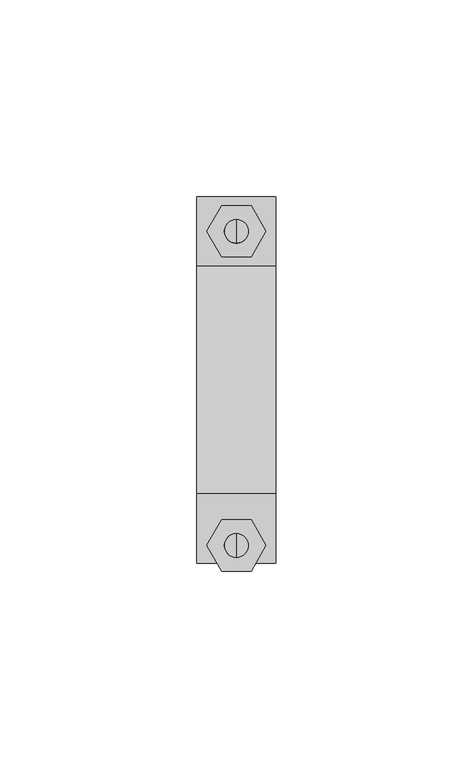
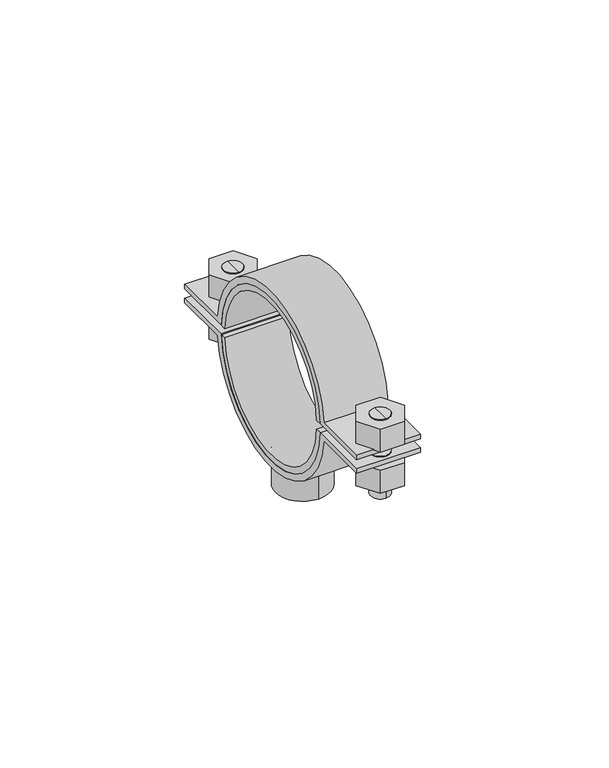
"""IFC4 building model written with IfcOpenShell, lengths in millimetres: valve geometry, Superfix DG2 Clamp Extra (based on pipe) : Superfix DG2 Clamp Extra (based on pipe)."""

import ifcopenshell
import ifcopenshell.guid

model = None  # the IFC model being written
_history = None  # IfcOwnerHistory: only IFC2X3 demands one
_inside = {}  # id of a spatial element -> (the spatial element, [elements in it])
_under = {}  # id of a project, library or spatial element -> (it, [spatial elements below it])
_declared = {}  # id of a project -> (the project, [libraries it declares])
_typed = {}  # id of a type object -> (the type object, [elements of that type])
_made_of = {}  # id of a material, layer set ... -> (it, [elements and type objects made of it])


def new_model(schema):
    """Start an empty IFC model of exactly this schema.

    Asked for "IFC4X3", IfcOpenShell would pick the latest addendum, in which some entities
    have other attributes; the version numbers below select the first issue.
    IFC2X3 requires an IfcOwnerHistory on every rooted entity: one is made here for all.
    """
    global model, _history
    if schema == "IFC4X3":
        model = ifcopenshell.file(schema_version=(4, 3, 0, 0))
    else:
        model = ifcopenshell.file(schema=schema)
    _inside.clear()
    _under.clear()
    _declared.clear()
    _typed.clear()
    _made_of.clear()
    _history = None
    if model.schema == "IFC2X3":
        org = make("IfcOrganization", Name="unknown")
        user = make(
            "IfcPersonAndOrganization",
            ThePerson=make("IfcPerson", FamilyName="unknown"),
            TheOrganization=org,
        )
        app = make(
            "IfcApplication",
            ApplicationDeveloper=org,
            Version="unknown",
            ApplicationFullName="unknown",
            ApplicationIdentifier="unknown",
        )
        _history = make(
            "IfcOwnerHistory",
            OwningUser=user,
            OwningApplication=app,
            ChangeAction="ADDED",
            CreationDate=0,
        )
    return model


def make(cls, **values):
    """One entity of the class cls with the attributes given. An attribute that is None is left unset."""
    return model.create_entity(
        cls, **{name: value for name, value in values.items() if value is not None}
    )


def rooted(cls, **values):
    """An entity with a GlobalId (a new one), such as an element, a storey or a relation."""
    return make(cls, GlobalId=ifcopenshell.guid.new(), OwnerHistory=_history, **values)


def si_unit(unit_type, name, prefix=None):
    """IfcSIUnit, for example si_unit("LENGTHUNIT", "METRE", prefix="MILLI")."""
    return make("IfcSIUnit", UnitType=unit_type, Prefix=prefix, Name=name)


def assignment(units):
    """IfcUnitAssignment: the units of a project."""
    return None if units is None else make("IfcUnitAssignment", Units=units)


def point(xyz):
    """IfcCartesianPoint."""
    return None if xyz is None else make("IfcCartesianPoint", Coordinates=xyz)


def direction(xyz):
    """IfcDirection."""
    return None if xyz is None else make("IfcDirection", DirectionRatios=xyz)


def frame(location, z_axis=None, x_axis=None):
    """IfcAxis2Placement3D, a coordinate frame: its origin and axes. An axis left out is left unset."""
    return make(
        "IfcAxis2Placement3D",
        Location=point(location),
        Axis=direction(z_axis),
        RefDirection=direction(x_axis),
    )


def frame_2d(location, x_axis=None):
    """IfcAxis2Placement2D, a coordinate frame in the plane: its origin and x axis."""
    return make(
        "IfcAxis2Placement2D", Location=point(location), RefDirection=direction(x_axis)
    )


def origin():
    """The frame at (0, 0, 0) with its axes left unset."""
    return frame((0.0, 0.0, 0.0))


def origin_2d():
    """The frame at (0, 0) in the plane with its x axis left unset."""
    return frame_2d((0.0, 0.0))


def place(relative_to, where):
    """IfcLocalPlacement: puts the frame where relative to a parent placement (None: the world)."""
    return make(
        "IfcLocalPlacement", PlacementRelTo=relative_to, RelativePlacement=where
    )


def context(
    kind, dimensions, precision=None, world=None, true_north=None, identifier=None
):
    """IfcGeometricRepresentationContext, for example the 3D "Model" context."""
    return make(
        "IfcGeometricRepresentationContext",
        ContextIdentifier=identifier,
        ContextType=kind,
        CoordinateSpaceDimension=dimensions,
        Precision=precision,
        WorldCoordinateSystem=world,
        TrueNorth=true_north,
    )


def project(units=None, contexts=None):
    """IfcProject with its units and contexts."""
    return rooted(
        "IfcProject",
        Name="project",
        RepresentationContexts=contexts,
        UnitsInContext=assignment(units),
    )


def spatial(cls, under=None, at=None, **own):
    """A site, building, storey or space (cls), placed at a placement, below another one or the project."""
    s = rooted(cls, ObjectPlacement=at, **own)
    if under is not None:
        _under.setdefault(under.id(), (under, []))[1].append(s)
    return s


def polyline(points):
    """IfcPolyline through the points."""
    return make("IfcPolyline", Points=[point(p) for p in points])


def circle_curve(where, radius):
    """IfcCircle in the frame where."""
    return make("IfcCircle", Position=where, Radius=radius)


def trimmed(basis, trim1, trim2, sense, master):
    """IfcTrimmedCurve: the piece of a basis curve between two trims."""
    return make(
        "IfcTrimmedCurve",
        BasisCurve=basis,
        Trim1=trim1,
        Trim2=trim2,
        SenseAgreement=sense,
        MasterRepresentation=master,
    )


def segment(curve, same_sense, transition):
    """IfcCompositeCurveSegment."""
    return make(
        "IfcCompositeCurveSegment",
        Transition=transition,
        SameSense=same_sense,
        ParentCurve=curve,
    )


def composite_curve(segments, self_intersect=None):
    """IfcCompositeCurve: segments joined end to end."""
    return make("IfcCompositeCurve", Segments=segments, SelfIntersect=self_intersect)


def outline(outer, holes=None, kind="AREA"):
    """IfcArbitraryClosedProfileDef: a profile drawn as a closed curve; with holes, ...WithVoids."""
    if holes is None:
        return make("IfcArbitraryClosedProfileDef", ProfileType=kind, OuterCurve=outer)
    return make(
        "IfcArbitraryProfileDefWithVoids",
        ProfileType=kind,
        OuterCurve=outer,
        InnerCurves=holes,
    )


def extrude(swept, where, along, depth):
    """IfcExtrudedAreaSolid: the profile swept, set in the frame where, extruded along a direction by depth."""
    return make(
        "IfcExtrudedAreaSolid",
        SweptArea=swept,
        Position=where,
        ExtrudedDirection=direction(along),
        Depth=depth,
    )


def shape(context_of_items, identifier, shape_type, items):
    """IfcShapeRepresentation: the items that make up one representation, for example the "Body"."""
    return make(
        "IfcShapeRepresentation",
        ContextOfItems=context_of_items,
        RepresentationIdentifier=identifier,
        RepresentationType=shape_type,
        Items=items,
    )


def source(mapping_origin, context_of_items, identifier, shape_type, items):
    """IfcRepresentationMap: a shape defined once, which mapped items show again and again."""
    return make(
        "IfcRepresentationMap",
        MappingOrigin=mapping_origin,
        MappedRepresentation=shape(context_of_items, identifier, shape_type, items),
    )


def transform(
    local_origin,
    x_axis=None,
    y_axis=None,
    z_axis=None,
    scale=None,
    scale2=None,
    scale3=None,
    uniform=True,
):
    """IfcCartesianTransformationOperator3D, or its non-uniform kind. x_axis, y_axis, z_axis: its Axis1, 2, 3."""
    if uniform:
        return make(
            "IfcCartesianTransformationOperator3D",
            Axis1=direction(x_axis),
            Axis2=direction(y_axis),
            LocalOrigin=point(local_origin),
            Scale=scale,
            Axis3=direction(z_axis),
        )
    return make(
        "IfcCartesianTransformationOperator3DnonUniform",
        Axis1=direction(x_axis),
        Axis2=direction(y_axis),
        LocalOrigin=point(local_origin),
        Scale=scale,
        Axis3=direction(z_axis),
        Scale2=scale2,
        Scale3=scale3,
    )


def mapped(mapping_source, mapping_target):
    """IfcMappedItem: shows the shape of a source again, moved by a transform."""
    return make(
        "IfcMappedItem", MappingSource=mapping_source, MappingTarget=mapping_target
    )


def made_of(thing, what):
    """Note that an element or type object is made of a material, layer set ...; save() writes the relation."""
    if what is not None:
        _made_of.setdefault(what.id(), (what, []))[1].append(thing)
    return thing


def element(
    cls,
    number,
    at=None,
    inside=None,
    cuts=None,
    type_object=None,
    material=None,
    context=None,
    identifier="Body",
    shape_type=None,
    held_by="IfcProductDefinitionShape",
    body=None,
    shapes=None,
    **own,
):
    """One element of the class cls, such as IfcWall. Its Tag is "e" and its number.

    at: its placement. inside: the storey or other place that contains it. cuts: it is an
    opening in that element (IfcRelVoidsElement). A single representation is given by context,
    identifier, shape_type and body (its items); several are given by shapes. held_by: the class
    of the entity that holds the representations. save() writes the other relations.
    """
    e = rooted(cls, Tag="e%d" % number, ObjectPlacement=at, **own)
    if body is not None:
        shapes = [shape(context, identifier, shape_type, body)]
    if shapes is not None:
        e.Representation = make(held_by, Representations=shapes)
    if inside is not None:
        _inside.setdefault(inside.id(), (inside, []))[1].append(e)
    if cuts is not None:
        rooted(
            "IfcRelVoidsElement", RelatingBuildingElement=cuts, RelatedOpeningElement=e
        )
    if type_object is not None:
        _typed.setdefault(type_object.id(), (type_object, []))[1].append(e)
    return made_of(e, material)


def aggregate(whole, parts):
    """IfcRelAggregates: a whole, such as a stair, and the parts it consists of."""
    return rooted("IfcRelAggregates", RelatingObject=whole, RelatedObjects=parts)


def save(model, path):
    """Write the relations noted so far, then the file.

    IfcRelAggregates (storeys below a building ...), IfcRelContainedInSpatialStructure (elements
    in a storey), IfcRelDefinesByType, IfcRelAssociatesMaterial and IfcRelDeclares: one each for
    every whole, place, type object, material and project.
    """
    for whole, parts in _under.values():
        aggregate(whole, parts)
    for where, things in _inside.values():
        rooted(
            "IfcRelContainedInSpatialStructure",
            RelatedElements=things,
            RelatingStructure=where,
        )
    for kind, things in _typed.values():
        rooted("IfcRelDefinesByType", RelatedObjects=things, RelatingType=kind)
    for what, things in _made_of.values():
        rooted("IfcRelAssociatesMaterial", RelatedObjects=things, RelatingMaterial=what)
    for by, libraries in _declared.values():
        rooted("IfcRelDeclares", RelatingContext=by, RelatedDefinitions=libraries)
    model.write(path)


def plane_surface(at):
    """IfcPlane: the flat surface through the origin of the frame at, square to its z axis."""
    return make("IfcPlane", Position=at)


def cylinder_surface(at, radius):
    """IfcCylindricalSurface: all points at the distance radius from the z axis of the frame at."""
    return make("IfcCylindricalSurface", Position=at, Radius=radius)


def advanced_brep(points, edges, surfaces, faces):
    """IfcAdvancedBrep: a solid bounded by faces that lie on surfaces and meet in shared edges.

    An edge is (start, end): straight between two places in points (the first is 0);
    or (start, end, curve); or (start, end, curve, False) where it runs against its curve.
    A face is (place in surfaces, loops), or (place, loops, False) where it looks against
    its surface's normal. A loop lists edges by number (the first is 1), with a minus sign
    where the edge is run from its end to its start. The first loop is the outer one.
    """
    corners = [point(p) for p in points]
    vertices = [make("IfcVertexPoint", VertexGeometry=c) for c in corners]
    made = []
    for start, end, *more in edges:
        made.append(
            make(
                "IfcEdgeCurve",
                EdgeStart=vertices[start],
                EdgeEnd=vertices[end],
                EdgeGeometry=more[0] if more else make("IfcPolyline", Points=[corners[start], corners[end]]),
                SameSense=more[1] if len(more) > 1 else True,
            )
        )
    hull = []
    for where, loops, *sense in faces:
        bounds = []
        for j, loop in enumerate(loops):
            ring = [make("IfcOrientedEdge", EdgeElement=made[abs(k) - 1], Orientation=k > 0) for k in loop]
            bounds.append(
                make(
                    "IfcFaceOuterBound" if j == 0 else "IfcFaceBound",
                    Bound=make("IfcEdgeLoop", EdgeList=ring),
                    Orientation=True,
                )
            )
        hull.append(make("IfcAdvancedFace", Bounds=bounds, FaceSurface=surfaces[where], SameSense=sense[0] if sense else True))
    return make("IfcAdvancedBrep", Outer=make("IfcClosedShell", CfsFaces=hull))


def valve_5bac2775(model_context):
    return source(origin(), model_context, "Body", "SolidModel", [
        advanced_brep(
        [(0.0, 40.75, 342.9002332), (0.0, 34.75, 342.9002332), (0.0, 34.75, 357.0002332), (0.0, 40.75, 357.0002332), (0.0, 37.75, 342.9002332)],
        [
            (0, 1, circle_curve(frame((0.0, 37.75, 342.9002332), z_axis=(0.0, 0.0, 1.0), x_axis=(0.0, 1.0, 0.0)), 3.0)),
            (1, 2),
            (2, 3, circle_curve(frame((0.0, 37.75, 357.0002332), z_axis=(0.0, 0.0, -1.0), x_axis=(0.0, 1.0, 0.0)), 3.0)),
            (3, 0),
            (1, 0, circle_curve(frame((0.0, 37.75, 342.9002332), z_axis=(0.0, 0.0, 1.0), x_axis=(0.0, 1.0, 0.0)), 3.0)),
            (3, 2, circle_curve(frame((0.0, 37.75, 357.0002332), z_axis=(0.0, 0.0, -1.0), x_axis=(0.0, 1.0, 0.0)), 3.0)),
            (0, 4),
            (4, 1),
        ],
        [
            cylinder_surface(frame((0.0, 37.75, 356.7808426), z_axis=(0.0, 0.0, 1.0), x_axis=(0.0, 1.0, 0.0)), 3.0),
            plane_surface(frame((0.0, 37.75, 342.9002332), z_axis=(0.0, 0.0, -1.0), x_axis=(0.0, 1.0, 0.0))),
            plane_surface(frame((13.75, -46.5, 357.0002332), z_axis=(0.0, 0.0, 1.0), x_axis=(-1.0, 0.0, 0.0))),
        ],
        [
            (0, [[1, 2, 3, 4]]),
            (0, [[5, -4, 6, -2]]),
            (1, [[-1, 7, 8]]),
            (1, [[-5, -8, -7]]),
            (2, [[-3, -6]]),
        ],
    ),
        advanced_brep(
        [(0.0, 34.75, 369.1002332), (0.0, 40.75, 369.1002332), (0.0, 40.75, 360.0002332), (0.0, 34.75, 360.0002332), (0.0, 37.75, 369.1002332)],
        [
            (0, 1, circle_curve(frame((0.0, 37.75, 369.1002332), z_axis=(0.0, 0.0, -1.0), x_axis=(0.0, 1.0, 0.0)), 3.0)),
            (1, 2),
            (2, 3, circle_curve(frame((0.0, 37.75, 360.0002332), z_axis=(0.0, 0.0, 1.0), x_axis=(0.0, 1.0, 0.0)), 3.0)),
            (3, 0),
            (1, 0, circle_curve(frame((0.0, 37.75, 369.1002332), z_axis=(0.0, 0.0, -1.0), x_axis=(0.0, 1.0, 0.0)), 3.0)),
            (3, 2, circle_curve(frame((0.0, 37.75, 360.0002332), z_axis=(0.0, 0.0, 1.0), x_axis=(0.0, 1.0, 0.0)), 3.0)),
            (0, 4),
            (4, 1),
        ],
        [
            cylinder_surface(frame((0.0, 37.75, 356.7808426), z_axis=(0.0, 0.0, 1.0), x_axis=(0.0, 1.0, 0.0)), 3.0),
            plane_surface(frame((0.0, 37.75, 369.1002332), z_axis=(0.0, 0.0, 1.0), x_axis=(0.0, 1.0, 0.0))),
            plane_surface(frame((13.75, 46.5, 360.0002332), z_axis=(0.0, 0.0, -1.0), x_axis=(-1.0, 0.0, 0.0))),
        ],
        [
            (0, [[1, 2, 3, 4]]),
            (0, [[5, -4, 6, -2]]),
            (1, [[-1, 7, 8]]),
            (1, [[-5, -8, -7]]),
            (2, [[-3, -6]]),
        ],
    ),
        advanced_brep(
        [(0.0, -45.0, 369.1002332), (0.0, -39.0, 369.1002332), (0.0, -39.0, 360.0002332), (0.0, -45.0, 360.0002332), (0.0, -42.0, 369.1002332)],
        [
            (0, 1, circle_curve(frame((0.0, -42.0, 369.1002332), z_axis=(0.0, 0.0, -1.0), x_axis=(0.0, -1.0, 0.0)), 3.0)),
            (1, 2),
            (2, 3, circle_curve(frame((0.0, -42.0, 360.0002332), z_axis=(0.0, 0.0, 1.0), x_axis=(0.0, -1.0, 0.0)), 3.0)),
            (3, 0),
            (1, 0, circle_curve(frame((0.0, -42.0, 369.1002332), z_axis=(0.0, 0.0, -1.0), x_axis=(0.0, -1.0, 0.0)), 3.0)),
            (3, 2, circle_curve(frame((0.0, -42.0, 360.0002332), z_axis=(0.0, 0.0, 1.0), x_axis=(0.0, -1.0, 0.0)), 3.0)),
            (0, 4),
            (4, 1),
        ],
        [
            cylinder_surface(frame((0.0, -42.0, 356.7808426), z_axis=(0.0, 0.0, -1.0), x_axis=(0.0, -1.0, 0.0)), 3.0),
            plane_surface(frame((0.0, -42.0, 369.1002332), z_axis=(0.0, 0.0, 1.0), x_axis=(0.0, -1.0, 0.0))),
            plane_surface(frame((13.75, 46.5, 360.0002332), z_axis=(0.0, 0.0, -1.0), x_axis=(-1.0, 0.0, 0.0))),
        ],
        [
            (0, [[1, 2, 3, 4]]),
            (0, [[5, -4, 6, -2]]),
            (1, [[-1, 7, 8]]),
            (1, [[-5, -8, -7]]),
            (2, [[-3, -6]]),
        ],
    ),
        advanced_brep(
        [(0.0, -39.0, 342.9002332), (0.0, -45.0, 342.9002332), (0.0, -45.0, 357.0002332), (0.0, -39.0, 357.0002332), (0.0, -42.0, 342.9002332)],
        [
            (0, 1, circle_curve(frame((0.0, -42.0, 342.9002332), z_axis=(0.0, 0.0, 1.0), x_axis=(0.0, -1.0, 0.0)), 3.0)),
            (1, 2),
            (2, 3, circle_curve(frame((0.0, -42.0, 357.0002332), z_axis=(0.0, 0.0, -1.0), x_axis=(0.0, -1.0, 0.0)), 3.0)),
            (3, 0),
            (1, 0, circle_curve(frame((0.0, -42.0, 342.9002332), z_axis=(0.0, 0.0, 1.0), x_axis=(0.0, -1.0, 0.0)), 3.0)),
            (3, 2, circle_curve(frame((0.0, -42.0, 357.0002332), z_axis=(0.0, 0.0, -1.0), x_axis=(0.0, -1.0, 0.0)), 3.0)),
            (0, 4),
            (4, 1),
        ],
        [
            cylinder_surface(frame((0.0, -42.0, 356.7808426), z_axis=(0.0, 0.0, -1.0), x_axis=(0.0, -1.0, 0.0)), 3.0),
            plane_surface(frame((0.0, -42.0, 342.9002332), z_axis=(0.0, 0.0, -1.0), x_axis=(0.0, -1.0, 0.0))),
            plane_surface(frame((13.75, -46.5, 357.0002332), z_axis=(0.0, 0.0, 1.0), x_axis=(-1.0, 0.0, 0.0))),
        ],
        [
            (0, [[1, 2, 3, 4]]),
            (0, [[5, -4, 6, -2]]),
            (1, [[-1, 7, 8]]),
            (1, [[-5, -8, -7]]),
            (2, [[-3, -6]]),
        ],
    ),
        extrude(outline(composite_curve([segment(trimmed(circle_curve(frame_2d((0.0, 358.5002332)), 27.0), [point((-26.9583011, 357.0002332))], [point((26.9583011, 357.0002332))], True, "CARTESIAN"), True, "CONTINUOUS"), segment(polyline([(26.9583011, 357.0002332), (46.5, 357.0002332), (46.5, 355.5002332), (28.8444102, 355.5002332)]), True, "CONTINUOUS"), segment(trimmed(circle_curve(frame_2d((0.0, 358.5002332)), 29.0), [point((28.8444102, 355.5002332))], [point((-28.8444102, 355.5002332))], False, "CARTESIAN"), True, "CONTINUOUS"), segment(polyline([(-28.8444102, 355.5002332), (-46.5, 355.5002332), (-46.5, 357.0002332), (-26.9583011, 357.0002332)]), True, "CONTINUOUS")], self_intersect=False)), frame((-10.0, 0.0, 0.0), z_axis=(1.0, 0.0, 0.0), x_axis=(0.0, 1.0, 0.0)), (0.0, 0.0, 1.0), 20.0),
        extrude(outline(composite_curve([segment(trimmed(circle_curve(frame_2d((0.0, 358.5002332)), 27.0), [point((26.9583011, 360.0002332))], [point((-26.9583011, 360.0002332))], True, "CARTESIAN"), True, "CONTINUOUS"), segment(polyline([(-26.9583011, 360.0002332), (-46.5, 360.0002332), (-46.5, 361.5002332), (-28.8444102, 361.5002332)]), True, "CONTINUOUS"), segment(trimmed(circle_curve(frame_2d((0.0, 358.5002332)), 29.0), [point((-28.8444102, 361.5002332))], [point((28.8444102, 361.5002332))], False, "CARTESIAN"), True, "CONTINUOUS"), segment(polyline([(28.8444102, 361.5002332), (46.5, 361.5002332), (46.5, 360.0002332), (26.9583011, 360.0002332)]), True, "CONTINUOUS")], self_intersect=False)), frame((-10.0, 0.0, 0.0), z_axis=(1.0, 0.0, 0.0), x_axis=(0.0, 1.0, 0.0)), (0.0, 0.0, 1.0), 20.0),
        extrude(outline(polyline([(7.5055535, -42.0), (3.7527767, -48.5), (-3.7527767, -48.5), (-7.5055535, -42.0), (-3.7527767, -35.5), (3.7527767, -35.5), (7.5055535, -42.0)]), holes=[composite_curve([segment(trimmed(circle_curve(frame_2d((0.0, -42.0)), 3.0), [point((3.0, -42.0))], [point((-3.0, -42.0))], True, "CARTESIAN"), True, "CONTINUOUS"), segment(trimmed(circle_curve(frame_2d((0.0, -42.0)), 3.0), [point((-3.0, -42.0))], [point((3.0, -42.0))], True, "CARTESIAN"), True, "CONTINUOUS")], self_intersect=False)]), frame((0.0, 0.0, 361.5002332), z_axis=(0.0, 0.0, 1.0), x_axis=(1.0, 0.0, 0.0)), (0.0, 0.0, 1.0), 7.6),
        extrude(outline(polyline([(7.5055535, 37.75), (3.7527767, 31.25), (-3.7527767, 31.25), (-7.5055535, 37.75), (-3.7527767, 44.25), (3.7527767, 44.25), (7.5055535, 37.75)]), holes=[composite_curve([segment(trimmed(circle_curve(frame_2d((0.0, 37.75)), 3.0), [point((3.0, 37.75))], [point((-3.0, 37.75))], True, "CARTESIAN"), True, "CONTINUOUS"), segment(trimmed(circle_curve(frame_2d((0.0, 37.75)), 3.0), [point((-3.0, 37.75))], [point((3.0, 37.75))], True, "CARTESIAN"), True, "CONTINUOUS")], self_intersect=False)]), frame((0.0, 0.0, 361.5002332), z_axis=(0.0, 0.0, 1.0), x_axis=(1.0, 0.0, 0.0)), (0.0, 0.0, 1.0), 7.6),
        extrude(outline(polyline([(7.5055535, -42.0), (3.7527767, -48.5), (-3.7527767, -48.5), (-7.5055535, -42.0), (-3.7527767, -35.5), (3.7527767, -35.5), (7.5055535, -42.0)]), holes=[composite_curve([segment(trimmed(circle_curve(frame_2d((0.0, -42.0)), 3.0), [point((3.0, -42.0))], [point((-3.0, -42.0))], True, "CARTESIAN"), True, "CONTINUOUS"), segment(trimmed(circle_curve(frame_2d((0.0, -42.0)), 3.0), [point((-3.0, -42.0))], [point((3.0, -42.0))], True, "CARTESIAN"), True, "CONTINUOUS")], self_intersect=False)]), frame((0.0, 0.0, 347.9002332), z_axis=(0.0, 0.0, 1.0), x_axis=(1.0, 0.0, 0.0)), (0.0, 0.0, 1.0), 7.6),
        extrude(outline(polyline([(7.5055535, 37.75), (3.7527767, 31.25), (-3.7527767, 31.25), (-7.5055535, 37.75), (-3.7527767, 44.25), (3.7527767, 44.25), (7.5055535, 37.75)]), holes=[composite_curve([segment(trimmed(circle_curve(frame_2d((0.0, 37.75)), 3.0), [point((3.0, 37.75))], [point((-3.0, 37.75))], True, "CARTESIAN"), True, "CONTINUOUS"), segment(trimmed(circle_curve(frame_2d((0.0, 37.75)), 3.0), [point((-3.0, 37.75))], [point((3.0, 37.75))], True, "CARTESIAN"), True, "CONTINUOUS")], self_intersect=False)]), frame((0.0, 0.0, 347.9002332), z_axis=(0.0, 0.0, 1.0), x_axis=(1.0, 0.0, 0.0)), (0.0, 0.0, 1.0), 7.6),
        extrude(outline(composite_curve([segment(trimmed(circle_curve(origin_2d(), 8.5), [point((0.0, 8.5))], [point((0.0, -8.5))], False, "CARTESIAN"), True, "CONTINUOUS"), segment(trimmed(circle_curve(origin_2d(), 8.5), [point((0.0, -8.5))], [point((0.0, 8.5))], False, "CARTESIAN"), True, "CONTINUOUS")], self_intersect=False), holes=[composite_curve([segment(trimmed(circle_curve(origin_2d(), 5.0), [point((0.0, 5.0))], [point((0.0, -5.0))], True, "CARTESIAN"), True, "CONTINUOUS"), segment(trimmed(circle_curve(origin_2d(), 5.0), [point((0.0, -5.0))], [point((0.0, 5.0))], True, "CARTESIAN"), True, "CONTINUOUS")], self_intersect=False)]), frame((0.0, 0.0, 320.5002332), z_axis=(0.0, 0.0, 1.0), x_axis=(1.0, 0.0, 0.0)), (0.0, 0.0, 1.0), 11.5),
        extrude(outline(composite_curve([segment(trimmed(circle_curve(frame_2d((0.0, 358.5002332)), 25.0), [point((24.9549594, 360.0002332))], [point((-24.9549594, 360.0002332))], True, "CARTESIAN"), True, "CONTINUOUS"), segment(polyline([(-24.9549594, 360.0002332), (-26.9583011, 360.0002332)]), True, "CONTINUOUS"), segment(trimmed(circle_curve(frame_2d((0.0, 358.5002332)), 27.0), [point((-26.9583011, 360.0002332))], [point((26.9583011, 360.0002332))], False, "CARTESIAN"), True, "CONTINUOUS"), segment(polyline([(26.9583011, 360.0002332), (24.9549594, 360.0002332)]), True, "CONTINUOUS")], self_intersect=False)), frame((-10.0, 0.0, 0.0), z_axis=(1.0, 0.0, 0.0), x_axis=(0.0, 1.0, 0.0)), (0.0, 0.0, 1.0), 20.0),
        extrude(outline(composite_curve([segment(polyline([(24.9549594, 357.0002332), (26.9583011, 357.0002332)]), True, "CONTINUOUS"), segment(trimmed(circle_curve(frame_2d((0.0, 358.5002332)), 27.0), [point((26.9583011, 357.0002332))], [point((-26.9583011, 357.0002332))], False, "CARTESIAN"), True, "CONTINUOUS"), segment(polyline([(-26.9583011, 357.0002332), (-24.9549594, 357.0002332)]), True, "CONTINUOUS"), segment(trimmed(circle_curve(frame_2d((0.0, 358.5002332)), 25.0), [point((-24.9549594, 357.0002332))], [point((24.9549594, 357.0002332))], True, "CARTESIAN"), True, "CONTINUOUS")], self_intersect=False)), frame((-10.0, 0.0, 0.0), z_axis=(1.0, 0.0, 0.0), x_axis=(0.0, 1.0, 0.0)), (0.0, 0.0, 1.0), 20.0),
    ])


if __name__ == "__main__":
    model = new_model("IFC4")
    model_context = context("Model", 3, world=origin())
    ifc_project = project(units=[si_unit("LENGTHUNIT", "METRE", prefix="MILLI")], contexts=[model_context])
    site = spatial("IfcSite", under=ifc_project)
    building = spatial("IfcBuilding", under=site)
    placement = place(None, origin())
    valve_shape = valve_5bac2775(model_context)
    element("IfcValve", 1, ObjectType="Superfix DG2 Clamp Extra (based on pipe) : Superfix DG2 Clamp Extra (based on pipe)", at=placement, inside=building, context=model_context, shape_type="MappedRepresentation", body=[
        mapped(valve_shape, transform((0.0, 0.0, 0.0), x_axis=(1.0, 0.0, 0.0), y_axis=(0.0, 1.0, 0.0), z_axis=(0.0, 0.0, 1.0))),
    ])
    save(model, "model.ifc")
